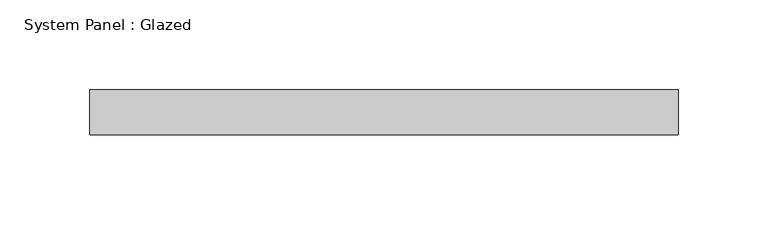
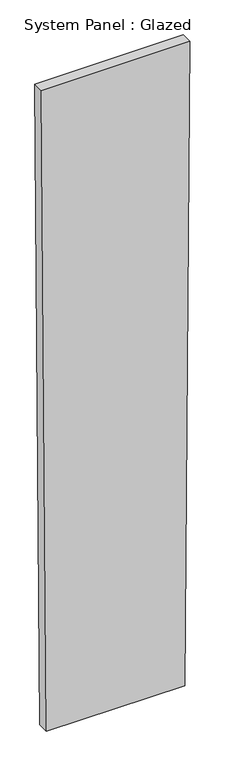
"""IFC4 building model written with IfcOpenShell, lengths in millimetres: plate geometry, System Panel : Glazed."""

import ifcopenshell
import ifcopenshell.guid

model = None  # the IFC model being written
_history = None  # IfcOwnerHistory: only IFC2X3 demands one
_inside = {}  # id of a spatial element -> (the spatial element, [elements in it])
_under = {}  # id of a project, library or spatial element -> (it, [spatial elements below it])
_declared = {}  # id of a project -> (the project, [libraries it declares])
_typed = {}  # id of a type object -> (the type object, [elements of that type])
_made_of = {}  # id of a material, layer set ... -> (it, [elements and type objects made of it])


def new_model(schema):
    """Start an empty IFC model of exactly this schema.

    Asked for "IFC4X3", IfcOpenShell would pick the latest addendum, in which some entities
    have other attributes; the version numbers below select the first issue.
    IFC2X3 requires an IfcOwnerHistory on every rooted entity: one is made here for all.
    """
    global model, _history
    if schema == "IFC4X3":
        model = ifcopenshell.file(schema_version=(4, 3, 0, 0))
    else:
        model = ifcopenshell.file(schema=schema)
    _inside.clear()
    _under.clear()
    _declared.clear()
    _typed.clear()
    _made_of.clear()
    _history = None
    if model.schema == "IFC2X3":
        org = make("IfcOrganization", Name="unknown")
        user = make(
            "IfcPersonAndOrganization",
            ThePerson=make("IfcPerson", FamilyName="unknown"),
            TheOrganization=org,
        )
        app = make(
            "IfcApplication",
            ApplicationDeveloper=org,
            Version="unknown",
            ApplicationFullName="unknown",
            ApplicationIdentifier="unknown",
        )
        _history = make(
            "IfcOwnerHistory",
            OwningUser=user,
            OwningApplication=app,
            ChangeAction="ADDED",
            CreationDate=0,
        )
    return model


def make(cls, **values):
    """One entity of the class cls with the attributes given. An attribute that is None is left unset."""
    return model.create_entity(
        cls, **{name: value for name, value in values.items() if value is not None}
    )


def rooted(cls, **values):
    """An entity with a GlobalId (a new one), such as an element, a storey or a relation."""
    return make(cls, GlobalId=ifcopenshell.guid.new(), OwnerHistory=_history, **values)


def si_unit(unit_type, name, prefix=None):
    """IfcSIUnit, for example si_unit("LENGTHUNIT", "METRE", prefix="MILLI")."""
    return make("IfcSIUnit", UnitType=unit_type, Prefix=prefix, Name=name)


def assignment(units):
    """IfcUnitAssignment: the units of a project."""
    return None if units is None else make("IfcUnitAssignment", Units=units)


def point(xyz):
    """IfcCartesianPoint."""
    return None if xyz is None else make("IfcCartesianPoint", Coordinates=xyz)


def direction(xyz):
    """IfcDirection."""
    return None if xyz is None else make("IfcDirection", DirectionRatios=xyz)


def frame(location, z_axis=None, x_axis=None):
    """IfcAxis2Placement3D, a coordinate frame: its origin and axes. An axis left out is left unset."""
    return make(
        "IfcAxis2Placement3D",
        Location=point(location),
        Axis=direction(z_axis),
        RefDirection=direction(x_axis),
    )


def origin():
    """The frame at (0, 0, 0) with its axes left unset."""
    return frame((0.0, 0.0, 0.0))


def place(relative_to, where):
    """IfcLocalPlacement: puts the frame where relative to a parent placement (None: the world)."""
    return make(
        "IfcLocalPlacement", PlacementRelTo=relative_to, RelativePlacement=where
    )


def context(
    kind, dimensions, precision=None, world=None, true_north=None, identifier=None
):
    """IfcGeometricRepresentationContext, for example the 3D "Model" context."""
    return make(
        "IfcGeometricRepresentationContext",
        ContextIdentifier=identifier,
        ContextType=kind,
        CoordinateSpaceDimension=dimensions,
        Precision=precision,
        WorldCoordinateSystem=world,
        TrueNorth=true_north,
    )


def project(units=None, contexts=None):
    """IfcProject with its units and contexts."""
    return rooted(
        "IfcProject",
        Name="project",
        RepresentationContexts=contexts,
        UnitsInContext=assignment(units),
    )


def spatial(cls, under=None, at=None, **own):
    """A site, building, storey or space (cls), placed at a placement, below another one or the project."""
    s = rooted(cls, ObjectPlacement=at, **own)
    if under is not None:
        _under.setdefault(under.id(), (under, []))[1].append(s)
    return s


def polyline(points):
    """IfcPolyline through the points."""
    return make("IfcPolyline", Points=[point(p) for p in points])


def outline(outer, holes=None, kind="AREA"):
    """IfcArbitraryClosedProfileDef: a profile drawn as a closed curve; with holes, ...WithVoids."""
    if holes is None:
        return make("IfcArbitraryClosedProfileDef", ProfileType=kind, OuterCurve=outer)
    return make(
        "IfcArbitraryProfileDefWithVoids",
        ProfileType=kind,
        OuterCurve=outer,
        InnerCurves=holes,
    )


def extrude(swept, where, along, depth):
    """IfcExtrudedAreaSolid: the profile swept, set in the frame where, extruded along a direction by depth."""
    return make(
        "IfcExtrudedAreaSolid",
        SweptArea=swept,
        Position=where,
        ExtrudedDirection=direction(along),
        Depth=depth,
    )


def shape(context_of_items, identifier, shape_type, items):
    """IfcShapeRepresentation: the items that make up one representation, for example the "Body"."""
    return make(
        "IfcShapeRepresentation",
        ContextOfItems=context_of_items,
        RepresentationIdentifier=identifier,
        RepresentationType=shape_type,
        Items=items,
    )


def source(mapping_origin, context_of_items, identifier, shape_type, items):
    """IfcRepresentationMap: a shape defined once, which mapped items show again and again."""
    return make(
        "IfcRepresentationMap",
        MappingOrigin=mapping_origin,
        MappedRepresentation=shape(context_of_items, identifier, shape_type, items),
    )


def transform(
    local_origin,
    x_axis=None,
    y_axis=None,
    z_axis=None,
    scale=None,
    scale2=None,
    scale3=None,
    uniform=True,
):
    """IfcCartesianTransformationOperator3D, or its non-uniform kind. x_axis, y_axis, z_axis: its Axis1, 2, 3."""
    if uniform:
        return make(
            "IfcCartesianTransformationOperator3D",
            Axis1=direction(x_axis),
            Axis2=direction(y_axis),
            LocalOrigin=point(local_origin),
            Scale=scale,
            Axis3=direction(z_axis),
        )
    return make(
        "IfcCartesianTransformationOperator3DnonUniform",
        Axis1=direction(x_axis),
        Axis2=direction(y_axis),
        LocalOrigin=point(local_origin),
        Scale=scale,
        Axis3=direction(z_axis),
        Scale2=scale2,
        Scale3=scale3,
    )


def mapped(mapping_source, mapping_target):
    """IfcMappedItem: shows the shape of a source again, moved by a transform."""
    return make(
        "IfcMappedItem", MappingSource=mapping_source, MappingTarget=mapping_target
    )


def made_of(thing, what):
    """Note that an element or type object is made of a material, layer set ...; save() writes the relation."""
    if what is not None:
        _made_of.setdefault(what.id(), (what, []))[1].append(thing)
    return thing


def element(
    cls,
    number,
    at=None,
    inside=None,
    cuts=None,
    type_object=None,
    material=None,
    context=None,
    identifier="Body",
    shape_type=None,
    held_by="IfcProductDefinitionShape",
    body=None,
    shapes=None,
    **own,
):
    """One element of the class cls, such as IfcWall. Its Tag is "e" and its number.

    at: its placement. inside: the storey or other place that contains it. cuts: it is an
    opening in that element (IfcRelVoidsElement). A single representation is given by context,
    identifier, shape_type and body (its items); several are given by shapes. held_by: the class
    of the entity that holds the representations. save() writes the other relations.
    """
    e = rooted(cls, Tag="e%d" % number, ObjectPlacement=at, **own)
    if body is not None:
        shapes = [shape(context, identifier, shape_type, body)]
    if shapes is not None:
        e.Representation = make(held_by, Representations=shapes)
    if inside is not None:
        _inside.setdefault(inside.id(), (inside, []))[1].append(e)
    if cuts is not None:
        rooted(
            "IfcRelVoidsElement", RelatingBuildingElement=cuts, RelatedOpeningElement=e
        )
    if type_object is not None:
        _typed.setdefault(type_object.id(), (type_object, []))[1].append(e)
    return made_of(e, material)


def aggregate(whole, parts):
    """IfcRelAggregates: a whole, such as a stair, and the parts it consists of."""
    return rooted("IfcRelAggregates", RelatingObject=whole, RelatedObjects=parts)


def save(model, path):
    """Write the relations noted so far, then the file.

    IfcRelAggregates (storeys below a building ...), IfcRelContainedInSpatialStructure (elements
    in a storey), IfcRelDefinesByType, IfcRelAssociatesMaterial and IfcRelDeclares: one each for
    every whole, place, type object, material and project.
    """
    for whole, parts in _under.values():
        aggregate(whole, parts)
    for where, things in _inside.values():
        rooted(
            "IfcRelContainedInSpatialStructure",
            RelatedElements=things,
            RelatingStructure=where,
        )
    for kind, things in _typed.values():
        rooted("IfcRelDefinesByType", RelatedObjects=things, RelatingType=kind)
    for what, things in _made_of.values():
        rooted("IfcRelAssociatesMaterial", RelatedObjects=things, RelatingMaterial=what)
    for by, libraries in _declared.values():
        rooted("IfcRelDeclares", RelatingContext=by, RelatedDefinitions=libraries)
    model.write(path)


def system_panel_glazed_42407800(model_context):
    return source(origin(), model_context, "Body", "SweptSolid", [
        extrude(outline(polyline([(0.0, -152.9122316), (0.0, 152.9121354), (1499.9594327, 163.9440173), (1499.9594327, -163.9440173), (0.0, -152.9122316)])), frame((0.0, -49.5, 0.0), z_axis=(0.0, 1.0, 0.0), x_axis=(0.0, 0.0, 1.0)), (0.0, 0.0, 1.0), 25.0),
    ])


if __name__ == "__main__":
    model = new_model("IFC4")
    model_context = context("Model", 3, world=origin())
    ifc_project = project(units=[si_unit("LENGTHUNIT", "METRE", prefix="MILLI")], contexts=[model_context])
    site = spatial("IfcSite", under=ifc_project)
    building = spatial("IfcBuilding", under=site)
    placement = place(None, origin())
    system_panel_glazed_shape = system_panel_glazed_42407800(model_context)
    element("IfcPlate", 1, ObjectType="System Panel : Glazed", at=placement, inside=building, context=model_context, shape_type="MappedRepresentation", body=[
        mapped(system_panel_glazed_shape, transform((0.0, 0.0, 0.0), x_axis=(1.0, 0.0, 0.0), y_axis=(0.0, 1.0, 0.0), z_axis=(0.0, 0.0, 1.0))),
    ])
    save(model, "model.ifc")
